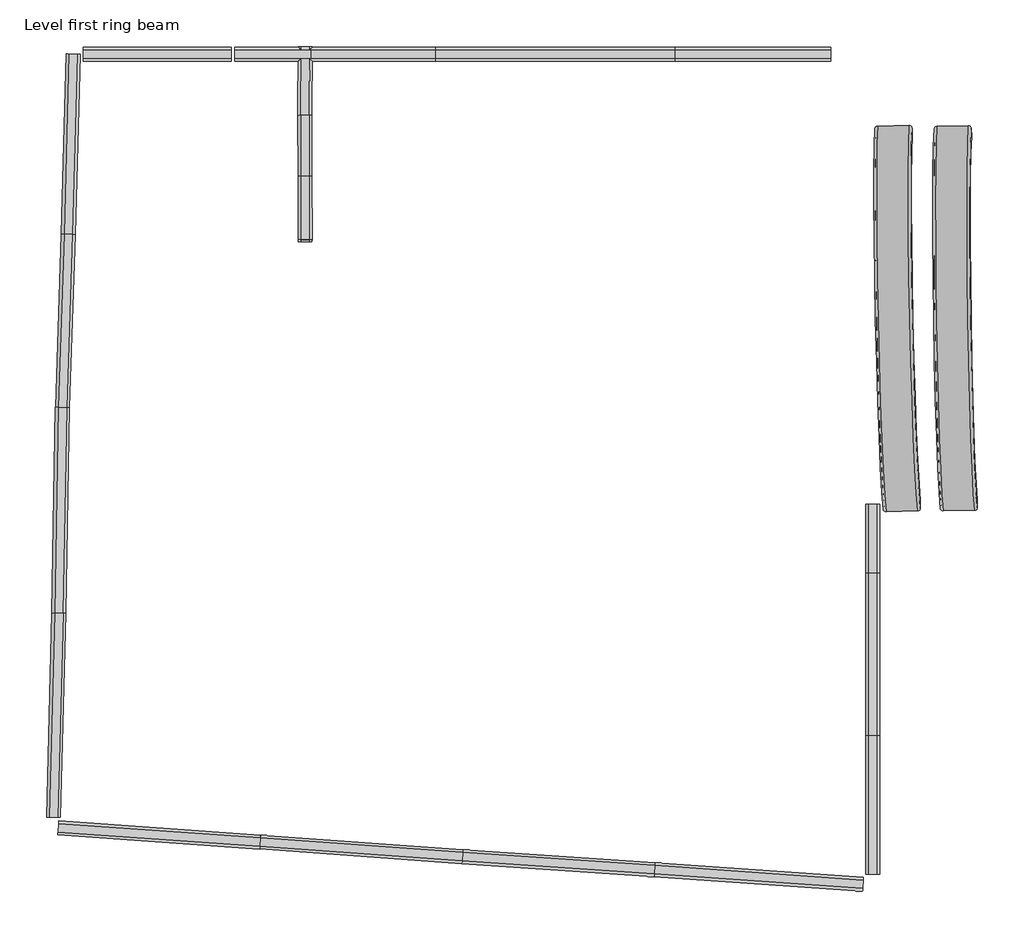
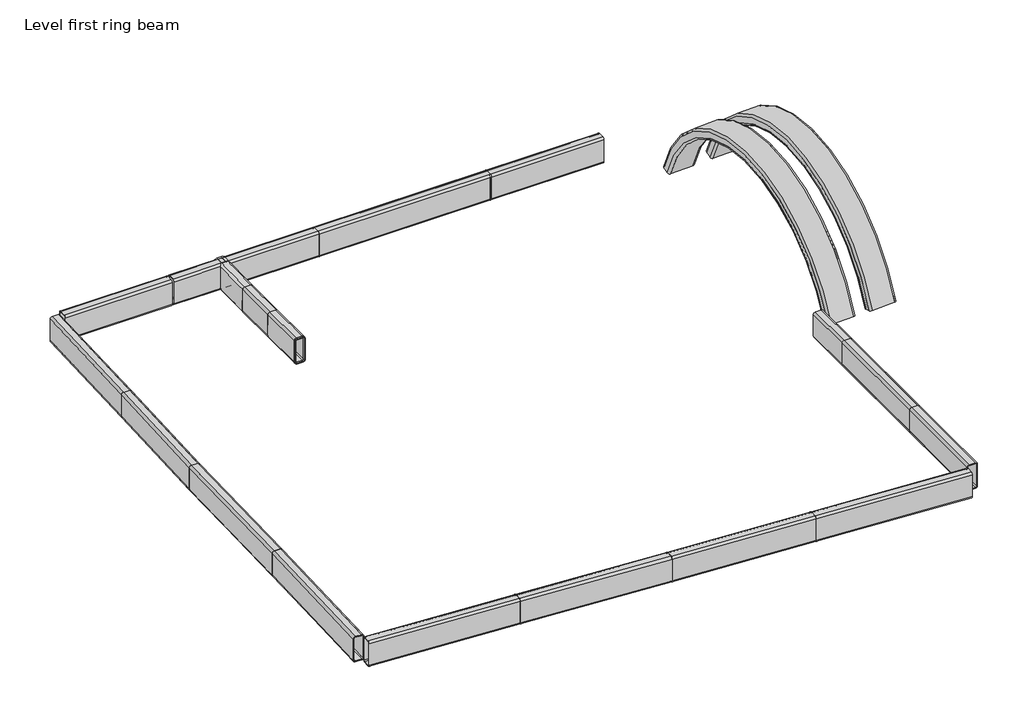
# One storey: 22 beams.
"""IFC4 building model written with IfcOpenShell, lengths in millimetres."""

from ifc_helpers import new_model, si_unit, origin, place, context, project, spatial, transform, mapped, element, save
from components import rectangular_and_square_hollow_sections_ded12cfc, rectangular_and_square_hollow_sections_8c7ce1b5, rectangular_and_square_hollow_sections_e37f9529, rectangular_and_square_hollow_sections_41ca3201, rectangular_and_square_hollow_sections_4ff3a7e4, rectangular_and_square_hollow_sections_102f63ac, rectangular_and_square_hollow_sections_916ed3c3, rectangular_and_square_hollow_sections_a68a78e6, rectangular_and_square_hollow_sections_a38e4463, rectangular_and_square_hollow_sections_833ee8e0, rectangular_and_square_hollow_sections_51908efd, rectangular_and_square_hollow_sections_5a22e211, rectangular_and_square_hollow_sections_88c51820, rectangular_and_square_hollow_sections_8ad52992, rectangular_and_square_hollow_sections_bea938f4, rectangular_and_square_hollow_sections_2afae095, rectangular_and_square_hollow_sections_ed79004a, rectangular_and_square_hollow_sections_c64638fc, rectangular_and_square_hollow_sections_28b53b98, rectangular_and_square_hollow_sections_39105970, rectangular_and_square_hollow_sections_f89f099c, rectangular_and_square_hollow_sections_4e81a107

model = new_model("IFC4")

# Units and contexts
model_context = context("Model", 3, world=origin())
ifc_project = project(units=[si_unit("LENGTHUNIT", "METRE", prefix="MILLI")], contexts=[model_context])

# Site, building, storey
site = spatial("IfcSite", under=ifc_project)
building = spatial("IfcBuilding", under=site)
storey = spatial("IfcBuildingStorey", under=building, Name="Level first ring beam", Elevation=-5124.0710106)

# Beams
placement = place(None, origin())
rectangular_and_square_hollow_sections_shape = rectangular_and_square_hollow_sections_ded12cfc(model_context)
element("IfcBeam", 1, ObjectType="Rectangular and Square Hollow Sections : TREC160x60x6", at=placement, inside=storey, context=model_context, shape_type="MappedRepresentation", body=[
    mapped(rectangular_and_square_hollow_sections_shape, transform((3166.8234388, 258.8946672, -5137.1951914), x_axis=(-0.02971907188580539, 0.3016079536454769, 0.9529687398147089), y_axis=(0.007153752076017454, -0.9533012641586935, 0.301936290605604), z_axis=(0.9995326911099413, 0.01579056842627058, 0.026173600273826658))),
])
rectangular_and_square_hollow_sections_2_shape = rectangular_and_square_hollow_sections_8c7ce1b5(model_context)
element("IfcBeam", 2, ObjectType="Rectangular and Square Hollow Sections : TREC160x60x6", at=placement, inside=storey, context=model_context, shape_type="MappedRepresentation", body=[
    mapped(rectangular_and_square_hollow_sections_2_shape, transform((2795.7169064, 110.2038449, -5124.071011), x_axis=(0.0, 1.0, 0.0), y_axis=(-1.0, 0.0, 0.0), z_axis=(0.0, 0.0, 1.0))),
])
rectangular_and_square_hollow_sections_3_shape = rectangular_and_square_hollow_sections_e37f9529(model_context)
element("IfcBeam", 3, ObjectType="Rectangular and Square Hollow Sections : TREC160x60x6", at=placement, inside=storey, context=model_context, shape_type="MappedRepresentation", body=[
    mapped(rectangular_and_square_hollow_sections_3_shape, transform((354.3282449, 1806.8771289, -5125.380457), x_axis=(-0.0010270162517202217, 0.9999877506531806, -0.004841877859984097), y_axis=(-0.9999994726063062, -0.0010270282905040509, 0.0), z_axis=(-4.972745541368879e-06, 0.004841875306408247, 0.9999882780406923))),
])
rectangular_and_square_hollow_sections_4_shape = rectangular_and_square_hollow_sections_41ca3201(model_context)
element("IfcBeam", 4, ObjectType="Rectangular and Square Hollow Sections : TREC160x60x6", at=placement, inside=storey, context=model_context, shape_type="MappedRepresentation", body=[
    mapped(rectangular_and_square_hollow_sections_4_shape, transform((2921.4061643, 256.0761586, -5139.3475883), x_axis=(-0.031597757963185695, 0.3057189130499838, 0.951597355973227), y_axis=(0.012788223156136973, -0.9518711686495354, 0.30623151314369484), z_axis=(0.9994188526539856, 0.021845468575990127, 0.026167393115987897))),
])
rectangular_and_square_hollow_sections_5_shape = rectangular_and_square_hollow_sections_4ff3a7e4(model_context)
element("IfcBeam", 5, ObjectType="Rectangular and Square Hollow Sections : TREC160x60x6", at=placement, inside=storey, context=model_context, shape_type="MappedRepresentation", body=[
    mapped(rectangular_and_square_hollow_sections_5_shape, transform((-295.7575241, 2193.8497029, -5124.071011), x_axis=(1.0, 0.0, 0.0), y_axis=(0.0, 1.0, 0.0), z_axis=(0.0, 0.0, 1.0))),
])
rectangular_and_square_hollow_sections_6_shape = rectangular_and_square_hollow_sections_102f63ac(model_context)
element("IfcBeam", 6, ObjectType="Rectangular and Square Hollow Sections : TREC160x60x6", at=placement, inside=storey, context=model_context, shape_type="MappedRepresentation", body=[
    mapped(rectangular_and_square_hollow_sections_6_shape, transform((-650.0095882, 1926.3617482, -5124.071011), x_axis=(0.02707654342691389, 0.9996333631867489, 0.0), y_axis=(-0.9996333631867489, 0.02707654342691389, 0.0), z_axis=(0.0, 0.0, 1.0))),
])
rectangular_and_square_hollow_sections_7_shape = rectangular_and_square_hollow_sections_916ed3c3(model_context)
element("IfcBeam", 7, ObjectType="Rectangular and Square Hollow Sections : TREC160x60x6", at=placement, inside=storey, context=model_context, shape_type="MappedRepresentation", body=[
    mapped(rectangular_and_square_hollow_sections_7_shape, transform((2426.225737, -1353.5601105, -5124.071011), x_axis=(0.9975640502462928, -0.06975647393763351, 0.0), y_axis=(0.06975647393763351, 0.9975640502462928, 0.0), z_axis=(0.0, 0.0, 1.0))),
])
rectangular_and_square_hollow_sections_8_shape = rectangular_and_square_hollow_sections_a68a78e6(model_context)
element("IfcBeam", 8, ObjectType="Rectangular and Square Hollow Sections : TREC160x60x6", at=placement, inside=storey, context=model_context, shape_type="MappedRepresentation", body=[
    mapped(rectangular_and_square_hollow_sections_8_shape, transform((2795.7169064, -1058.4165821, -5124.071011), x_axis=(0.0, 1.0, 0.0), y_axis=(-1.0, 0.0, 0.0), z_axis=(0.0, 0.0, 1.0))),
])
rectangular_and_square_hollow_sections_9_shape = rectangular_and_square_hollow_sections_a38e4463(model_context)
element("IfcBeam", 9, ObjectType="Rectangular and Square Hollow Sections : TREC160x60x6", at=placement, inside=storey, context=model_context, shape_type="MappedRepresentation", body=[
    mapped(rectangular_and_square_hollow_sections_9_shape, transform((-435.1998836, -1153.4697389, -5124.0710105), x_axis=(0.9975640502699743, -0.06975647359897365, 8.371037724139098e-10), y_axis=(0.06975647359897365, 0.9975640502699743, 0.0), z_axis=(-8.350646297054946e-10, 5.839340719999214e-11, 1.0))),
])
rectangular_and_square_hollow_sections_10_shape = rectangular_and_square_hollow_sections_833ee8e0(model_context)
element("IfcBeam", 10, ObjectType="Rectangular and Square Hollow Sections : TREC160x60x6", at=placement, inside=storey, context=model_context, shape_type="MappedRepresentation", body=[
    mapped(rectangular_and_square_hollow_sections_10_shape, transform((355.2172939, 2069.2064199, -5125.0590675), x_axis=(0.008266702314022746, 0.9999344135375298, 0.00792655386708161), y_axis=(-0.9999658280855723, 0.008266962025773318, 0.0), z_axis=(-6.552851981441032e-05, -0.00792628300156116, 0.9999685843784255))),
])
rectangular_and_square_hollow_sections_11_shape = rectangular_and_square_hollow_sections_51908efd(model_context)
element("IfcBeam", 11, ObjectType="Rectangular and Square Hollow Sections : TREC160x60x6", at=placement, inside=storey, context=model_context, shape_type="MappedRepresentation", body=[
    mapped(rectangular_and_square_hollow_sections_11_shape, transform((354.6324554, 1532.9024589, -5124.3924005), x_axis=(-0.0011945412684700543, 0.9999965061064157, -0.0023581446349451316), y_axis=(-0.9999992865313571, -0.001194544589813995, 0.0), z_axis=(-2.816908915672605e-06, 0.0023581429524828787, 0.999997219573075))),
])
rectangular_and_square_hollow_sections_12_shape = rectangular_and_square_hollow_sections_5a22e211(model_context)
element("IfcBeam", 12, ObjectType="Rectangular and Square Hollow Sections : TREC160x60x6", at=placement, inside=storey, context=model_context, shape_type="MappedRepresentation", body=[
    mapped(rectangular_and_square_hollow_sections_12_shape, transform((351.1046949, 1225.6617614, -5125.7438755), x_axis=(0.02158223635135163, 0.9997192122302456, 0.009782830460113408), y_axis=(-0.9997670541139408, 0.02158326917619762, 0.0), z_axis=(-0.00021114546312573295, -0.009780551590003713, 0.999952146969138))),
])
rectangular_and_square_hollow_sections_13_shape = rectangular_and_square_hollow_sections_88c51820(model_context)
element("IfcBeam", 13, ObjectType="Rectangular and Square Hollow Sections : TREC160x60x6", at=placement, inside=storey, context=model_context, shape_type="MappedRepresentation", body=[
    mapped(rectangular_and_square_hollow_sections_13_shape, transform((2795.7169064, -387.9613456, -5124.071011), x_axis=(0.0, 1.0, 0.0), y_axis=(-1.0, 0.0, 0.0), z_axis=(0.0, 0.0, 1.0))),
])
rectangular_and_square_hollow_sections_14_shape = rectangular_and_square_hollow_sections_8ad52992(model_context)
element("IfcBeam", 14, ObjectType="Rectangular and Square Hollow Sections : TREC160x60x6", at=placement, inside=storey, context=model_context, shape_type="MappedRepresentation", body=[
    mapped(rectangular_and_square_hollow_sections_14_shape, transform((2405.6652494, 2193.8497029, -5124.071011), x_axis=(1.0, 0.0, 0.0), y_axis=(0.0, 1.0, 0.0), z_axis=(0.0, 0.0, 1.0))),
])
rectangular_and_square_hollow_sections_15_shape = rectangular_and_square_hollow_sections_bea938f4(model_context)
element("IfcBeam", 15, ObjectType="Rectangular and Square Hollow Sections : TREC160x60x6", at=placement, inside=storey, context=model_context, shape_type="MappedRepresentation", body=[
    mapped(rectangular_and_square_hollow_sections_15_shape, transform((633.0049444, 2193.8497029, -5124.071011), x_axis=(1.0, 0.0, 0.0), y_axis=(0.0, 1.0, 0.0), z_axis=(0.0, 0.0, 1.0))),
])
rectangular_and_square_hollow_sections_16_shape = rectangular_and_square_hollow_sections_2afae095(model_context)
element("IfcBeam", 16, ObjectType="Rectangular and Square Hollow Sections : TREC160x60x6", at=placement, inside=storey, context=model_context, shape_type="MappedRepresentation", body=[
    mapped(rectangular_and_square_hollow_sections_16_shape, transform((1420.4388271, 2193.8497029, -5124.071011), x_axis=(1.0, 0.0, 0.0), y_axis=(0.0, 1.0, 0.0), z_axis=(0.0, 0.0, 1.0))),
])
rectangular_and_square_hollow_sections_17_shape = rectangular_and_square_hollow_sections_ed79004a(model_context)
element("IfcBeam", 17, ObjectType="Rectangular and Square Hollow Sections : TREC160x60x6", at=placement, inside=storey, context=model_context, shape_type="MappedRepresentation", body=[
    mapped(rectangular_and_square_hollow_sections_17_shape, transform((201.2492344, 2193.8497029, -5124.071011), x_axis=(1.0, 0.0, 0.0), y_axis=(0.0, 1.0, 0.0), z_axis=(0.0, 0.0, 1.0))),
])
rectangular_and_square_hollow_sections_18_shape = rectangular_and_square_hollow_sections_c64638fc(model_context)
element("IfcBeam", 18, ObjectType="Rectangular and Square Hollow Sections : TREC160x60x6", at=placement, inside=storey, context=model_context, shape_type="MappedRepresentation", body=[
    mapped(rectangular_and_square_hollow_sections_18_shape, transform((-676.3745601, 1039.3844114, -5124.071011), x_axis=(0.03323178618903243, 0.9994476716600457, 0.0), y_axis=(-0.9994476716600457, 0.03323178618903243, 0.0), z_axis=(0.0, 0.0, 1.0))),
])
rectangular_and_square_hollow_sections_19_shape = rectangular_and_square_hollow_sections_28b53b98(model_context)
element("IfcBeam", 19, ObjectType="Rectangular and Square Hollow Sections : TREC160x60x6", at=placement, inside=storey, context=model_context, shape_type="MappedRepresentation", body=[
    mapped(rectangular_and_square_hollow_sections_19_shape, transform((-716.3994611, -671.6386701, -5124.071011), x_axis=(0.025972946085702, 0.9996626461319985, 0.0), y_axis=(-0.9996626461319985, 0.025972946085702, 0.0), z_axis=(0.0, 0.0, 1.0))),
])
rectangular_and_square_hollow_sections_20_shape = rectangular_and_square_hollow_sections_39105970(model_context)
element("IfcBeam", 20, ObjectType="Rectangular and Square Hollow Sections : TREC160x60x6", at=placement, inside=storey, context=model_context, shape_type="MappedRepresentation", body=[
    mapped(rectangular_and_square_hollow_sections_20_shape, transform((-697.0019533, 213.3049739, -5124.071011), x_axis=(0.01792685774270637, 0.9998393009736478, 0.0), y_axis=(-0.9998393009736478, 0.01792685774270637, 0.0), z_axis=(0.0, 0.0, 1.0))),
])
rectangular_and_square_hollow_sections_21_shape = rectangular_and_square_hollow_sections_f89f099c(model_context)
element("IfcBeam", 21, ObjectType="Rectangular and Square Hollow Sections : TREC160x60x6", at=placement, inside=storey, context=model_context, shape_type="MappedRepresentation", body=[
    mapped(rectangular_and_square_hollow_sections_21_shape, transform((602.6941344, -1226.9098076, -5124.0710105), x_axis=(0.9974265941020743, -0.07169511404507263, -1.1281811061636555e-09), y_axis=(0.07169511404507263, 0.9974265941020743, 0.0), z_axis=(1.1252778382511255e-09, -8.088507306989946e-11, 1.0))),
])
rectangular_and_square_hollow_sections_22_shape = rectangular_and_square_hollow_sections_4e81a107(model_context)
element("IfcBeam", 22, ObjectType="Rectangular and Square Hollow Sections : TREC160x60x6", at=placement, inside=storey, context=model_context, shape_type="MappedRepresentation", body=[
    mapped(rectangular_and_square_hollow_sections_22_shape, transform((1451.4367154, -1286.2596706, -5124.071011), x_axis=(0.9977092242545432, -0.06764838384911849, 0.0), y_axis=(0.06764838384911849, 0.9977092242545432, 0.0), z_axis=(0.0, 0.0, 1.0))),
])

save(model, "model.ifc")
